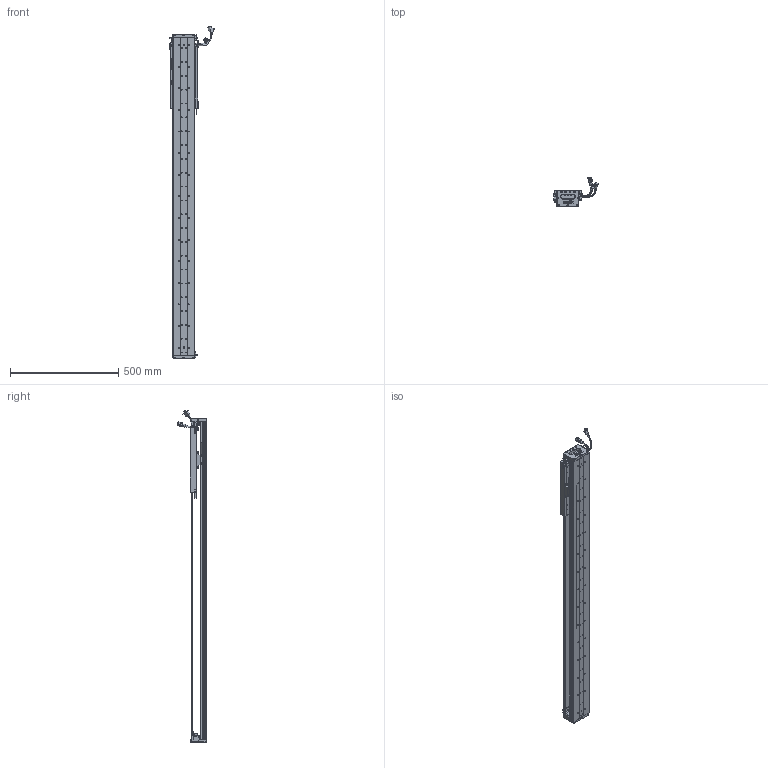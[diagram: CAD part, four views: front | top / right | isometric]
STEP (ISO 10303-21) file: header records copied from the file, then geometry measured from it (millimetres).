
FILE_DESCRIPTION (( 'STEP AP203' ), '1' );
FILE_NAME ('Z4-RY100D-1-L500-B-K.SLDASM_1100.step', '2021-05-17T03:02:31', ( '盈信电脑' ), ( '东莞市道滘镇水果街19号' ), 'SwSTEP 2.0', 'SolidWorks 2016', '' );
FILE_SCHEMA (( 'CONFIG_CONTROL_DESIGN' ));
Length unit declared in the file: millimetre
Products named in the file (36): Z-RY100D詩湍奻揤裔; Z-RY100D覜茼んえ; HOLDER0; SCREW-M1.6-1; LABEL; HARNESS; SCREW-M1.7-1; LABEL-Part-1; COVER-Part-1; HARNESS-Part-2; SCREW-M1.6-2; Z4-RY100-L500詩湍90mm遵_1100; 100-Z-臏賑輸盄裔(21遴); SHIELDPLATE; Z-100詩湍傷裔啣; 覜茼ん672; 140蚥薯蝶輸; SCREW-M1.7; PSLH080_PSLF2; Z4-RY100D-1-L500-B-K.SLDASM_1100; Z-RY100D詩湍狟揤裔; SCREW-M1.6; 140雄赽晤鎢ん堤盄; 榋妏寠巭燃_暯_M2_2; PBU_SHEET; COVER; Z4-RY100铝滑块（21款）; SEAL; HARNESS-Part-1; SEAL-Part-1; 080黍杅芛假蚾釱21遴; SCREW-M1.6-3; SCALE-Part-1; SCALE-Part-2; Z4-RY100D-500-倰第菁釱_1100; SCALE
Assembly tree (43 placements, depth 4):
  Z4-RY100D-1-L500-B-K.SLDASM_1100
    Z4-RY100D-500-倰第菁釱_1100
    Z4-RY100铝滑块（21款）
    PSLH080_PSLF2
      SCALE
        SCALE-Part-1
        SCALE-Part-2
      HARNESS
        HARNESS-Part-1
        HARNESS-Part-2
      LABEL
        LABEL-Part-1
      COVER
        COVER-Part-1
      SEAL
        SEAL-Part-1
      榋妏寠巭燃_暯_M2_2
      SHIELDPLATE
      SCREW-M1.7
      SCREW-M1.7-1
      PBU_SHEET
      SCREW-M1.6
      SCREW-M1.6-1
      SCREW-M1.6-2
      SCREW-M1.6-3
      HOLDER0
    080黍杅芛假蚾釱21遴
    Z-100詩湍傷裔啣  x2
    140蚥薯蝶輸  x2
    覜茼ん672  x3
    Z-RY100D覜茼んえ  x3
    100-Z-臏賑輸盄裔(21遴)
    140雄赽晤鎢ん堤盄
    Z4-RY100-L500詩湍90mm遵_1100
    Z-RY100D詩湍狟揤裔  x2
    Z-RY100D詩湍奻揤裔  x2
Bounding box: 205.84 x 136.11 x 1535.43 mm (x, y, z)
Volume: 3181705.4 mm3; surface area: 1212910.9 mm2
Topology: 38 solids, 38 shells, 2710 faces, 7195 edges, 4564 vertices
Faces by surface type: cylinder 1222, plane 1140, cone 226, torus 69, bspline 53
Entity records: 75099 total; most frequent: CARTESIAN_POINT 15786, DIRECTION 11967, ORIENTED_EDGE 11270, EDGE_CURVE 5635, AXIS2_PLACEMENT_3D 4433, VERTEX_POINT 3632, LINE 3101, VECTOR 3101
